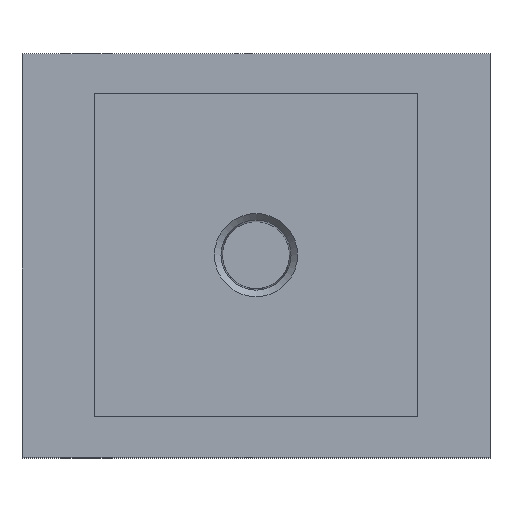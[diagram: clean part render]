
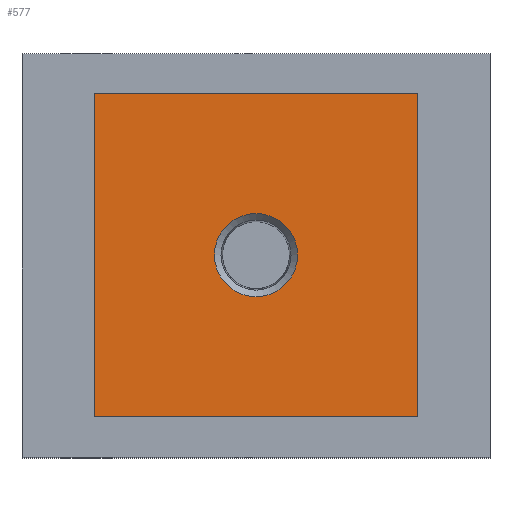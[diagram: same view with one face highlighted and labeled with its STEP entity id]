
A CAD part, top view. The second image highlights one B-rep face of the part: STEP entity #577.
In plain terms, the highlighted planar face has unit normal (0, 0, 1).
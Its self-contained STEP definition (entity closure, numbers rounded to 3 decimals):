
#25=LINE('',#896,#61);
#28=LINE('',#902,#64);
#31=LINE('',#908,#67);
#34=LINE('',#912,#70);
#61=VECTOR('',#716,40.);
#64=VECTOR('',#721,40.);
#67=VECTOR('',#726,40.);
#70=VECTOR('',#731,40.);
#101=PLANE('',#629);
#123=FACE_BOUND('',#211,.T.);
#124=FACE_BOUND('',#212,.T.);
#211=EDGE_LOOP('',(#451));
#212=EDGE_LOOP('',(#452,#453,#454,#455));
#275=CIRCLE('',#614,5.15);
#305=VERTEX_POINT('',#872);
#313=VERTEX_POINT('',#893);
#314=VERTEX_POINT('',#895);
#316=VERTEX_POINT('',#901);
#318=VERTEX_POINT('',#907);
#359=EDGE_CURVE('',#305,#305,#275,.T.);
#367=EDGE_CURVE('',#314,#313,#25,.T.);
#370=EDGE_CURVE('',#316,#314,#28,.T.);
#373=EDGE_CURVE('',#318,#316,#31,.T.);
#376=EDGE_CURVE('',#313,#318,#34,.T.);
#451=ORIENTED_EDGE('',*,*,#359,.T.);
#452=ORIENTED_EDGE('',*,*,#376,.T.);
#453=ORIENTED_EDGE('',*,*,#373,.T.);
#454=ORIENTED_EDGE('',*,*,#370,.T.);
#455=ORIENTED_EDGE('',*,*,#367,.T.);
#577=ADVANCED_FACE('',(#123,#124),#101,.T.);
#614=AXIS2_PLACEMENT_3D('',#873,#690,#691);
#629=AXIS2_PLACEMENT_3D('',#913,#732,#733);
#690=DIRECTION('center_axis',(0.,0.,-1.));
#691=DIRECTION('ref_axis',(1.,0.,0.));
#716=DIRECTION('',(0.,1.,0.));
#721=DIRECTION('',(1.,0.,0.));
#726=DIRECTION('',(0.,-1.,0.));
#731=DIRECTION('',(-1.,0.,0.));
#732=DIRECTION('center_axis',(0.,0.,1.));
#733=DIRECTION('ref_axis',(1.,0.,0.));
#872=CARTESIAN_POINT('',(5.15,0.,67.));
#873=CARTESIAN_POINT('Origin',(0.,0.,67.));
#893=CARTESIAN_POINT('',(20.,20.,67.));
#895=CARTESIAN_POINT('',(20.,-20.,67.));
#896=CARTESIAN_POINT('',(20.,20.,67.));
#901=CARTESIAN_POINT('',(-20.,-20.,67.));
#902=CARTESIAN_POINT('',(20.,-20.,67.));
#907=CARTESIAN_POINT('',(-20.,20.,67.));
#908=CARTESIAN_POINT('',(-20.,-20.,67.));
#912=CARTESIAN_POINT('',(-20.,20.,67.));
#913=CARTESIAN_POINT('Origin',(0.,0.,67.));
